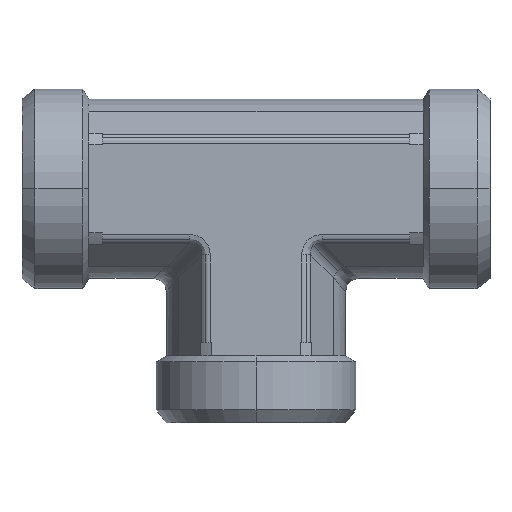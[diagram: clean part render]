
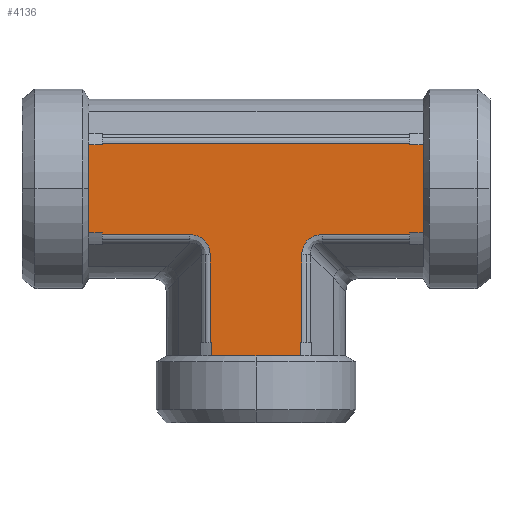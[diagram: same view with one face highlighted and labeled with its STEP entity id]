
A CAD part, left-side view. The second image highlights one B-rep face of the part: STEP entity #4136.
In plain terms, the highlighted planar face has unit normal (-1, 0, 0).
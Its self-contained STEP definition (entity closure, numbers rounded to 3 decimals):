
#668=CARTESIAN_POINT('',(-13.375,25.,12.));
#669=VERTEX_POINT('',#668);
#769=CARTESIAN_POINT('',(-13.375,0.,-13.));
#770=VERTEX_POINT('',#769);
#843=CARTESIAN_POINT('',(-13.375,-25.0,12.));
#844=VERTEX_POINT('',#843);
#952=CARTESIAN_POINT('',(-13.375,9.887,5.144));
#953=VERTEX_POINT('',#952);
#961=CARTESIAN_POINT('',(-13.375,23.,5.144));
#962=VERTEX_POINT('',#961);
#963=CARTESIAN_POINT('',(-13.375,9.887,5.144));
#964=DIRECTION('',(0.0,1.0,0.0));
#965=VECTOR('',#964,13.113);
#966=LINE('',#963,#965);
#967=EDGE_CURVE('',#953,#962,#966,.T.);
#1320=CARTESIAN_POINT('',(-13.375,-6.856,2.113));
#1321=VERTEX_POINT('',#1320);
#1329=CARTESIAN_POINT('',(-13.375,-6.856,-11.));
#1330=VERTEX_POINT('',#1329);
#1331=CARTESIAN_POINT('',(-13.375,-6.856,2.113));
#1332=DIRECTION('',(0.0,0.0,-1.0));
#1333=VECTOR('',#1332,13.113);
#1334=LINE('',#1331,#1333);
#1335=EDGE_CURVE('',#1321,#1330,#1334,.T.);
#1726=CARTESIAN_POINT('',(-13.375,23.,18.856));
#1727=VERTEX_POINT('',#1726);
#1735=CARTESIAN_POINT('',(-13.375,-23.,18.856));
#1736=VERTEX_POINT('',#1735);
#1737=CARTESIAN_POINT('',(-13.375,23.,18.856));
#1738=DIRECTION('',(0.0,-1.0,0.0));
#1739=VECTOR('',#1738,46.0);
#1740=LINE('',#1737,#1739);
#1741=EDGE_CURVE('',#1727,#1736,#1740,.T.);
#2183=CARTESIAN_POINT('',(-13.375,-23.,5.411));
#2184=VERTEX_POINT('',#2183);
#2192=CARTESIAN_POINT('',(-13.375,-23.,5.144));
#2193=VERTEX_POINT('',#2192);
#2194=CARTESIAN_POINT('',(-13.375,-23.,5.144));
#2195=DIRECTION('',(0.0,0.0,1.0));
#2196=VECTOR('',#2195,0.267);
#2197=LINE('',#2194,#2196);
#2198=EDGE_CURVE('',#2193,#2184,#2197,.T.);
#2216=CARTESIAN_POINT('',(-13.375,-23.,18.589));
#2217=VERTEX_POINT('',#2216);
#2218=CARTESIAN_POINT('',(-13.375,-23.,18.589));
#2219=DIRECTION('',(0.0,0.0,1.0));
#2220=VECTOR('',#2219,0.267);
#2221=LINE('',#2218,#2220);
#2222=EDGE_CURVE('',#2217,#1736,#2221,.T.);
#2297=CARTESIAN_POINT('',(-13.375,-25.0,5.411));
#2298=VERTEX_POINT('',#2297);
#2306=CARTESIAN_POINT('',(-13.375,-23.,5.411));
#2307=DIRECTION('',(0.0,-1.0,0.0));
#2308=VECTOR('',#2307,2.);
#2309=LINE('',#2306,#2308);
#2310=EDGE_CURVE('',#2184,#2298,#2309,.T.);
#2371=CARTESIAN_POINT('',(-13.375,-25.0,18.589));
#2372=VERTEX_POINT('',#2371);
#2373=CARTESIAN_POINT('',(-13.375,-25.0,18.589));
#2374=DIRECTION('',(0.0,1.0,0.0));
#2375=VECTOR('',#2374,2.);
#2376=LINE('',#2373,#2375);
#2377=EDGE_CURVE('',#2372,#2217,#2376,.T.);
#2536=CARTESIAN_POINT('',(-13.375,-9.887,5.144));
#2537=VERTEX_POINT('',#2536);
#2538=CARTESIAN_POINT('',(-13.375,-23.,5.144));
#2539=DIRECTION('',(0.0,1.0,0.0));
#2540=VECTOR('',#2539,13.113);
#2541=LINE('',#2538,#2540);
#2542=EDGE_CURVE('',#2193,#2537,#2541,.T.);
#2718=CARTESIAN_POINT('',(-13.375,6.589,-11.));
#2719=VERTEX_POINT('',#2718);
#2727=CARTESIAN_POINT('',(-13.375,6.856,-11.));
#2728=VERTEX_POINT('',#2727);
#2729=CARTESIAN_POINT('',(-13.375,6.856,-11.));
#2730=DIRECTION('',(0.0,-1.0,0.0));
#2731=VECTOR('',#2730,0.267);
#2732=LINE('',#2729,#2731);
#2733=EDGE_CURVE('',#2728,#2719,#2732,.T.);
#2751=CARTESIAN_POINT('',(-13.375,-6.589,-11.));
#2752=VERTEX_POINT('',#2751);
#2753=CARTESIAN_POINT('',(-13.375,-6.589,-11.));
#2754=DIRECTION('',(0.0,-1.0,0.0));
#2755=VECTOR('',#2754,0.267);
#2756=LINE('',#2753,#2755);
#2757=EDGE_CURVE('',#2752,#1330,#2756,.T.);
#2865=CARTESIAN_POINT('',(-13.375,-6.589,-13.0));
#2866=VERTEX_POINT('',#2865);
#2867=CARTESIAN_POINT('',(-13.375,-6.589,-13.0));
#2868=DIRECTION('',(0.0,0.0,1.0));
#2869=VECTOR('',#2868,2.);
#2870=LINE('',#2867,#2869);
#2871=EDGE_CURVE('',#2866,#2752,#2870,.T.);
#2905=CARTESIAN_POINT('',(-13.375,6.589,-13.0));
#2906=VERTEX_POINT('',#2905);
#2914=CARTESIAN_POINT('',(-13.375,6.589,-11.));
#2915=DIRECTION('',(0.0,0.0,-1.0));
#2916=VECTOR('',#2915,2.);
#2917=LINE('',#2914,#2916);
#2918=EDGE_CURVE('',#2719,#2906,#2917,.T.);
#3150=CARTESIAN_POINT('',(-13.375,6.856,2.113));
#3151=VERTEX_POINT('',#3150);
#3152=CARTESIAN_POINT('',(-13.375,6.856,-11.));
#3153=DIRECTION('',(0.0,0.0,1.0));
#3154=VECTOR('',#3153,13.113);
#3155=LINE('',#3152,#3154);
#3156=EDGE_CURVE('',#2728,#3151,#3155,.T.);
#3398=CARTESIAN_POINT('',(-13.375,23.,18.589));
#3399=VERTEX_POINT('',#3398);
#3400=CARTESIAN_POINT('',(-13.375,23.,18.856));
#3401=DIRECTION('',(0.0,0.0,-1.0));
#3402=VECTOR('',#3401,0.267);
#3403=LINE('',#3400,#3402);
#3404=EDGE_CURVE('',#1727,#3399,#3403,.T.);
#3424=CARTESIAN_POINT('',(-13.375,23.,5.411));
#3425=VERTEX_POINT('',#3424);
#3426=CARTESIAN_POINT('',(-13.375,23.,5.411));
#3427=DIRECTION('',(0.0,0.0,-1.0));
#3428=VECTOR('',#3427,0.267);
#3429=LINE('',#3426,#3428);
#3430=EDGE_CURVE('',#3425,#962,#3429,.T.);
#3497=CARTESIAN_POINT('',(-13.375,25.0,18.589));
#3498=VERTEX_POINT('',#3497);
#3499=CARTESIAN_POINT('',(-13.375,23.,18.589));
#3500=DIRECTION('',(0.0,1.0,0.0));
#3501=VECTOR('',#3500,2.);
#3502=LINE('',#3499,#3501);
#3503=EDGE_CURVE('',#3399,#3498,#3502,.T.);
#3572=CARTESIAN_POINT('',(-13.375,25.0,5.411));
#3573=VERTEX_POINT('',#3572);
#3574=CARTESIAN_POINT('',(-13.375,25.0,5.411));
#3575=DIRECTION('',(0.0,-1.0,0.0));
#3576=VECTOR('',#3575,2.);
#3577=LINE('',#3574,#3576);
#3578=EDGE_CURVE('',#3573,#3425,#3577,.T.);
#3680=CARTESIAN_POINT('',(-13.375,25.0,18.589));
#3681=DIRECTION('',(0.0,0.0,-1.0));
#3682=VECTOR('',#3681,6.589);
#3683=LINE('',#3680,#3682);
#3684=EDGE_CURVE('',#3498,#669,#3683,.T.);
#3870=CARTESIAN_POINT('',(-13.375,-25.0,12.));
#3871=DIRECTION('',(0.0,0.0,1.0));
#3872=VECTOR('',#3871,6.589);
#3873=LINE('',#3870,#3872);
#3874=EDGE_CURVE('',#844,#2372,#3873,.T.);
#3949=CARTESIAN_POINT('',(-13.375,0.,-13.));
#3950=DIRECTION('',(0.0,-1.0,0.0));
#3951=VECTOR('',#3950,6.589);
#3952=LINE('',#3949,#3951);
#3953=EDGE_CURVE('',#770,#2866,#3952,.T.);
#3990=CARTESIAN_POINT('',(-13.375,6.589,-13.0));
#3991=DIRECTION('',(0.0,-1.0,0.0));
#3992=VECTOR('',#3991,6.589);
#3993=LINE('',#3990,#3992);
#3994=EDGE_CURVE('',#2906,#770,#3993,.T.);
#4059=CARTESIAN_POINT('',(-13.375,25.,12.));
#4060=DIRECTION('',(0.0,0.0,-1.0));
#4061=VECTOR('',#4060,6.589);
#4062=LINE('',#4059,#4061);
#4063=EDGE_CURVE('',#669,#3573,#4062,.T.);
#4083=CARTESIAN_POINT('',(-13.375,-25.0,5.411));
#4084=DIRECTION('',(0.0,0.0,1.0));
#4085=VECTOR('',#4084,6.589);
#4086=LINE('',#4083,#4085);
#4087=EDGE_CURVE('',#2298,#844,#4086,.T.);
#4092=CARTESIAN_POINT('',(-13.375,7.722,12.0));
#4093=DIRECTION('',(-1.0,0.0,0.0));
#4094=DIRECTION('',(0.0,0.0,1.0));
#4095=AXIS2_PLACEMENT_3D('',#4092,#4093,#4094);
#4096=PLANE('',#4095);
#4097=ORIENTED_EDGE('',*,*,#2222,.T.);
#4098=ORIENTED_EDGE('',*,*,#1741,.F.);
#4099=ORIENTED_EDGE('',*,*,#3404,.T.);
#4100=ORIENTED_EDGE('',*,*,#3503,.T.);
#4101=ORIENTED_EDGE('',*,*,#3684,.T.);
#4102=ORIENTED_EDGE('',*,*,#4063,.T.);
#4103=ORIENTED_EDGE('',*,*,#3578,.T.);
#4104=ORIENTED_EDGE('',*,*,#3430,.T.);
#4105=ORIENTED_EDGE('',*,*,#967,.F.);
#4106=CARTESIAN_POINT('',(-13.375,10.897,1.103));
#4107=DIRECTION('',(-1.,0.,0.));
#4108=DIRECTION('',(0.,-0.707,0.707));
#4109=AXIS2_PLACEMENT_3D('',#4106,#4107,#4108);
#4110=ELLIPSE('',#4109,4.518,3.5);
#4111=EDGE_CURVE('',#3151,#953,#4110,.T.);
#4112=ORIENTED_EDGE('',*,*,#4111,.F.);
#4113=ORIENTED_EDGE('',*,*,#3156,.F.);
#4114=ORIENTED_EDGE('',*,*,#2733,.T.);
#4115=ORIENTED_EDGE('',*,*,#2918,.T.);
#4116=ORIENTED_EDGE('',*,*,#3994,.T.);
#4117=ORIENTED_EDGE('',*,*,#3953,.T.);
#4118=ORIENTED_EDGE('',*,*,#2871,.T.);
#4119=ORIENTED_EDGE('',*,*,#2757,.T.);
#4120=ORIENTED_EDGE('',*,*,#1335,.F.);
#4121=CARTESIAN_POINT('',(-13.375,-10.897,1.103));
#4122=DIRECTION('',(-1.,0.,0.));
#4123=DIRECTION('',(0.,0.707,0.707));
#4124=AXIS2_PLACEMENT_3D('',#4121,#4122,#4123);
#4125=ELLIPSE('',#4124,4.518,3.5);
#4126=EDGE_CURVE('',#2537,#1321,#4125,.T.);
#4127=ORIENTED_EDGE('',*,*,#4126,.F.);
#4128=ORIENTED_EDGE('',*,*,#2542,.F.);
#4129=ORIENTED_EDGE('',*,*,#2198,.T.);
#4130=ORIENTED_EDGE('',*,*,#2310,.T.);
#4131=ORIENTED_EDGE('',*,*,#4087,.T.);
#4132=ORIENTED_EDGE('',*,*,#3874,.T.);
#4133=ORIENTED_EDGE('',*,*,#2377,.T.);
#4134=EDGE_LOOP('',(#4097,#4098,#4099,#4100,#4101,#4102,#4103,#4104,#4105,#4112,#4113,#4114,#4115,#4116,#4117,#4118,#4119,#4120,#4127,#4128,#4129,#4130,#4131,#4132,#4133));
#4135=FACE_OUTER_BOUND('',#4134,.T.);
#4136=ADVANCED_FACE('',(#4135),#4096,.T.);
